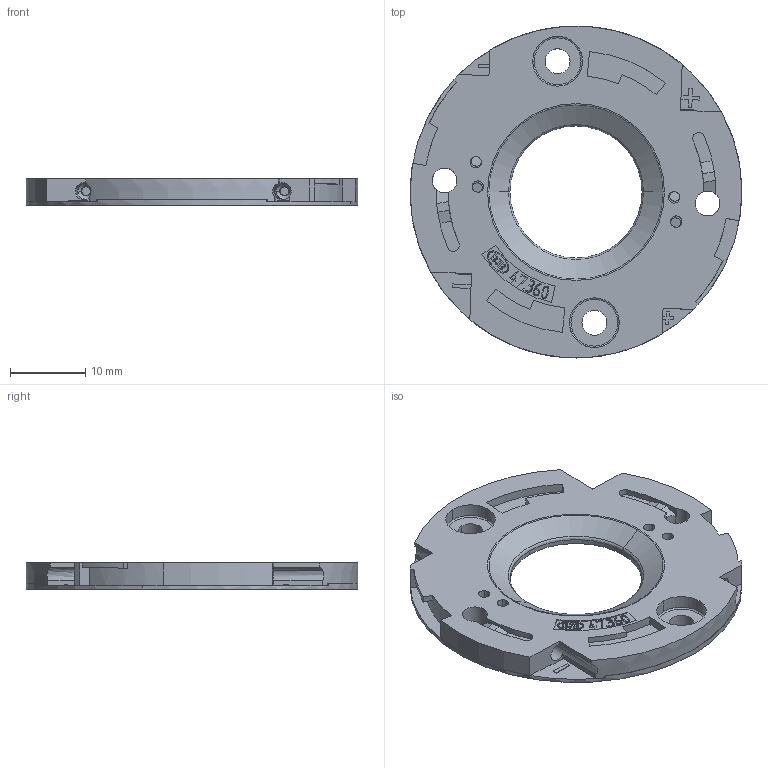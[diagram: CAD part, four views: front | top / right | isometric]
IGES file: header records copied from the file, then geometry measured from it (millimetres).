
Global section: file name: C:\CoreTechnologie\3D-in/01ZYR2XY08.igs; native system: CT CoreTechnologie 3D Evolution; preprocessor: 2006; date: 1190021.115751; units: millimetre
Bounding box: 44 x 44 x 3.5 mm (x, y, z)
Volume: 3407.5 mm3; surface area: 6028.9 mm2
Topology: 2 solids, 2 shells, 514 faces, 1454 edges, 984 vertices
Faces by surface type: plane 330, revolution 146, bspline 38
